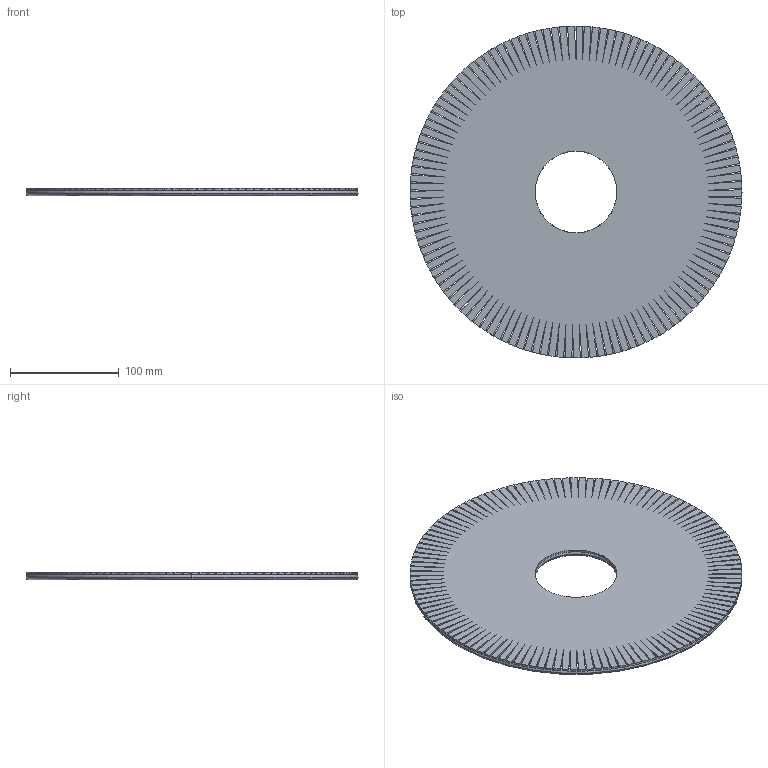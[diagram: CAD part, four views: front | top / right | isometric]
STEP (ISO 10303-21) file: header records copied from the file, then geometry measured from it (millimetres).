
FILE_DESCRIPTION (( 'STEP AP214' ), '1' );
FILE_NAME ('WIND 300.STEP', '2026-08-27T13:21:44', ( '' ), ( '' ), 'SwSTEP 2.0', 'SolidWorks 2023', '' );
FILE_SCHEMA (( 'AUTOMOTIVE_DESIGN' ));
Length unit declared in the file: millimetre
Products named in the file (1): WIND 300
Bounding box: 305 x 305 x 7 mm (x, y, z)
Volume: 154688.6 mm3; surface area: 167316.4 mm2
Topology: 3 solids, 3 shells, 635 faces, 1891 edges, 1258 vertices
Faces by surface type: plane 627, torus 8
Entity records: 20910 total; most frequent: CARTESIAN_POINT 3785, ORIENTED_EDGE 3782, DIRECTION 3179, EDGE_CURVE 1891, LINE 1875, VECTOR 1875, VERTEX_POINT 1258, AXIS2_PLACEMENT_3D 652
